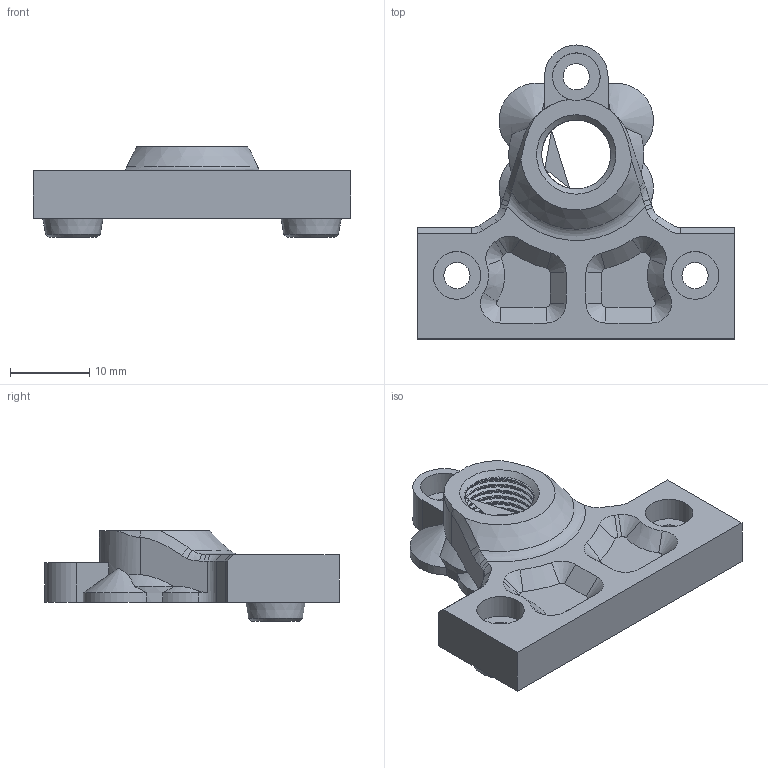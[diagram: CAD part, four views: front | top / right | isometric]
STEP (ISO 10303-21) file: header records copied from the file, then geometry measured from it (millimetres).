
FILE_DESCRIPTION(/* description */ (''),/* implementation_level */ '2;1');
FILE_NAME(/* name */ 'HMG7-E3D-Revo-Voron-PC4-M10.step',/* time_stamp */ '2022-11-01T21:35:00-07:00',/* author */ (''),/* organization */ (''),/* preprocessor_version */ 'ST-DEVELOPER v19.2',/* originating_system */ 'Autodesk Translation Framework v11.17.0.187',/* authorisation */ '');
FILE_SCHEMA (('AUTOMOTIVE_DESIGN { 1 0 10303 214 3 1 1 }'));
Length unit declared in the file: millimetre
Products named in the file (4): GEN_7_1.5; Revo_Voron; Revo_Voron_Mount; Bowden_PC4_M10
Assembly tree (3 placements, depth 4):
  GEN_7_1.5
    Revo_Voron
      Revo_Voron_Mount
        Bowden_PC4_M10
Bounding box: 40 x 37.03 x 11.38 mm (x, y, z)
Volume: 4772.9 mm3; surface area: 3407.4 mm2
Topology: 1 solids, 1 shells, 121 faces, 320 edges, 207 vertices
Faces by surface type: plane 37, cone 36, cylinder 31, bspline 16, torus 1
Full cylindrical faces by diameter (mm): 3.3 x3, 6 x3, 9.728 x8
Entity records: 8880 total; most frequent: CARTESIAN_POINT 5909, ORIENTED_EDGE 640, DIRECTION 548, EDGE_CURVE 320, AXIS2_PLACEMENT_3D 208, VERTEX_POINT 207, EDGE_LOOP 135, LINE 132
